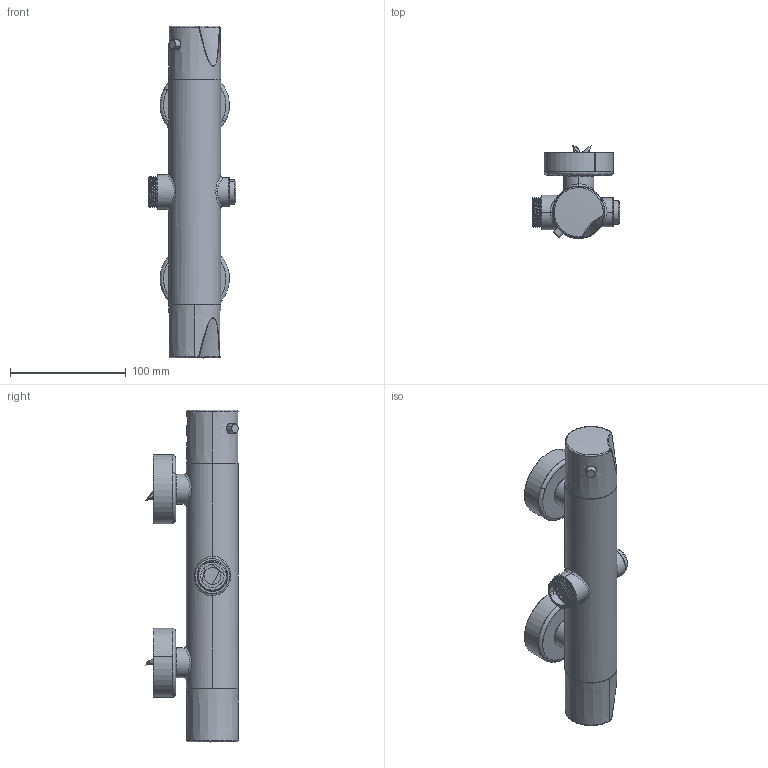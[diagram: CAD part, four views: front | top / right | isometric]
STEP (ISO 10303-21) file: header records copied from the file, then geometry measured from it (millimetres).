
FILE_DESCRIPTION (( 'STEP AP214' ), '1' );
FILE_NAME ('96228410 x architetti.STEP', '2024-10-02T14:51:20', ( '' ), ( '' ), 'SwSTEP 2.0', 'SolidWorks 2020', '' );
FILE_SCHEMA (( 'AUTOMOTIVE_DESIGN' ));
Length unit declared in the file: millimetre
Products named in the file (8): P1007; F0802410; P1002; B3301102       ; P1008; 96228410 x architetti; B2307310       ; 1001-037
Assembly tree (8 placements, depth 2):
  96228410 x architetti
    P1002
    1001-037
    B3301102       
    P1007
    P1008
    B2307310       
    F0802410  x2
Bounding box: 75.7 x 80.36 x 286.89 mm (x, y, z)
Volume: 94967.7 mm3; surface area: 126379.7 mm2
Topology: 5 solids, 14 shells, 732 faces, 1996 edges, 1294 vertices
Faces by surface type: cylinder 278, bspline 207, plane 183, cone 62, torus 2
Entity records: 66331 total; most frequent: CARTESIAN_POINT 49209, ORIENTED_EDGE 3856, DIRECTION 2634, EDGE_CURVE 1931, VERTEX_POINT 1260, AXIS2_PLACEMENT_3D 1018, EDGE_LOOP 760, B_SPLINE_CURVE_WITH_KNOTS 755
